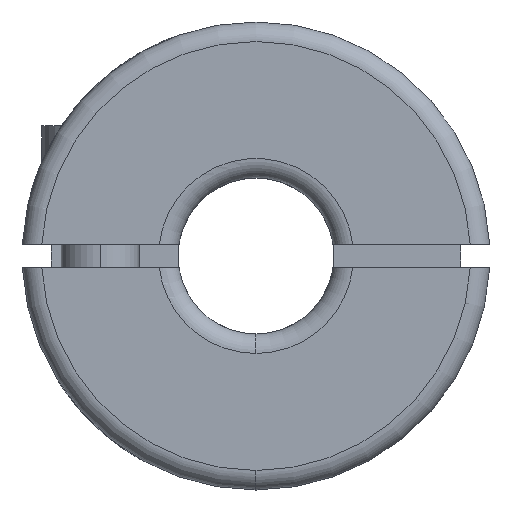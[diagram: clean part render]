
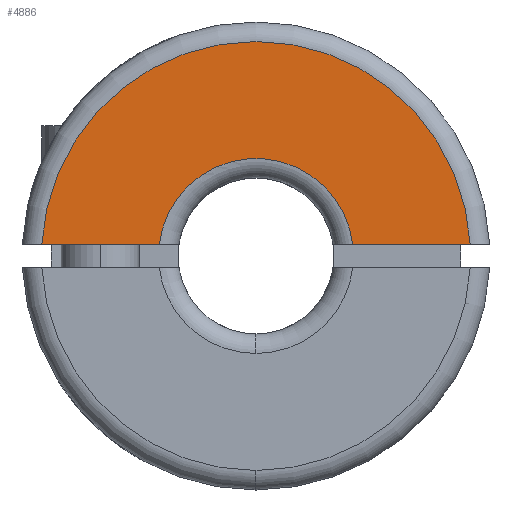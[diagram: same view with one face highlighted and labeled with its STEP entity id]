
A CAD part, left-side view. The second image highlights one B-rep face of the part: STEP entity #4886.
In plain terms, the highlighted planar face has unit normal (-1, 0, 0).
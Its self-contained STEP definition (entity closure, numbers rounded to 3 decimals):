
#2581 = DIRECTION ( 'NONE',  ( 0., 0., -1. ) ) ;
#2582 = DIRECTION ( 'NONE',  ( -1., 0., 0. ) ) ;
#2583 = CARTESIAN_POINT ( 'NONE',  ( -11.75, 0., 0. ) ) ;
#2584 = AXIS2_PLACEMENT_3D ( 'NONE', #2583, #2582, #2581 ) ;
#2591 = CIRCLE ( 'NONE', #2584, 5.5 ) ;
#2976 = CARTESIAN_POINT ( 'NONE',  ( -11.75, 2.482, 0.3 ) ) ;
#3003 = CARTESIAN_POINT ( 'NONE',  ( -11.75, -2.482, 0.3 ) ) ;
#3004 = CARTESIAN_POINT ( 'NONE',  ( -11.75, -5.492, 0.3 ) ) ;
#3005 = DIRECTION ( 'NONE',  ( 0., 1., 0. ) ) ;
#3006 = VECTOR ( 'NONE', #3005, 1000. ) ;
#3007 = CARTESIAN_POINT ( 'NONE',  ( -11.75, 6., 0.3 ) ) ;
#3008 = LINE ( 'NONE', #3007, #3006 ) ;
#3026 = CARTESIAN_POINT ( 'NONE',  ( -11.75, 5.492, 0.3 ) ) ;
#3027 = DIRECTION ( 'NONE',  ( 0., 1., 0. ) ) ;
#3028 = VECTOR ( 'NONE', #3027, 1000. ) ;
#3029 = CARTESIAN_POINT ( 'NONE',  ( -11.75, 6., 0.3 ) ) ;
#3030 = LINE ( 'NONE', #3029, #3028 ) ;
#3059 = DIRECTION ( 'NONE',  ( 0., 0., -1. ) ) ;
#3060 = DIRECTION ( 'NONE',  ( 1., 0., 0. ) ) ;
#3061 = CARTESIAN_POINT ( 'NONE',  ( -11.75, 6., 0. ) ) ;
#3062 = AXIS2_PLACEMENT_3D ( 'NONE', #3061, #3060, #3059 ) ;
#3063 = PLANE ( 'NONE',  #3062 ) ;
#3064 = FACE_OUTER_BOUND ( 'NONE', #4887, .T. ) ;
#3116 = DIRECTION ( 'NONE',  ( 0., 0., -1. ) ) ;
#3117 = DIRECTION ( 'NONE',  ( 1., 0., 0. ) ) ;
#3118 = CARTESIAN_POINT ( 'NONE',  ( -11.75, 0., 0. ) ) ;
#3119 = AXIS2_PLACEMENT_3D ( 'NONE', #3118, #3117, #3116 ) ;
#3120 = CIRCLE ( 'NONE', #3119, 2.5 ) ;
#4583 = EDGE_CURVE ( 'NONE', #4834, #4817, #2591, .T. ) ;
#4814 = VERTEX_POINT ( 'NONE', #2976 ) ;
#4816 = EDGE_CURVE ( 'NONE', #4814, #4817, #3030, .T. ) ;
#4817 = VERTEX_POINT ( 'NONE', #3026 ) ;
#4833 = EDGE_CURVE ( 'NONE', #4834, #4835, #3008, .T. ) ;
#4834 = VERTEX_POINT ( 'NONE', #3004 ) ;
#4835 = VERTEX_POINT ( 'NONE', #3003 ) ;
#4886 = ADVANCED_FACE ( 'NONE', ( #3064 ), #3063, .F. ) ;
#4887 = EDGE_LOOP ( 'NONE', ( #4888, #4889, #4891, #4892 ) ) ;
#4888 = ORIENTED_EDGE ( 'NONE', *, *, #4816, .F. ) ;
#4889 = ORIENTED_EDGE ( 'NONE', *, *, #4890, .T. ) ;
#4890 = EDGE_CURVE ( 'NONE', #4814, #4835, #3120, .T. ) ;
#4891 = ORIENTED_EDGE ( 'NONE', *, *, #4833, .F. ) ;
#4892 = ORIENTED_EDGE ( 'NONE', *, *, #4583, .T. ) ;
